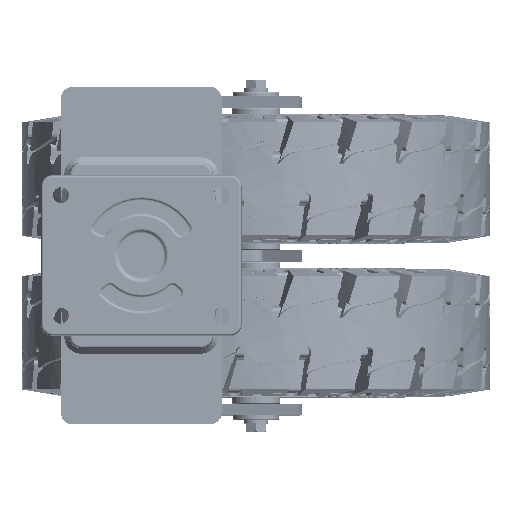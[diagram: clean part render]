
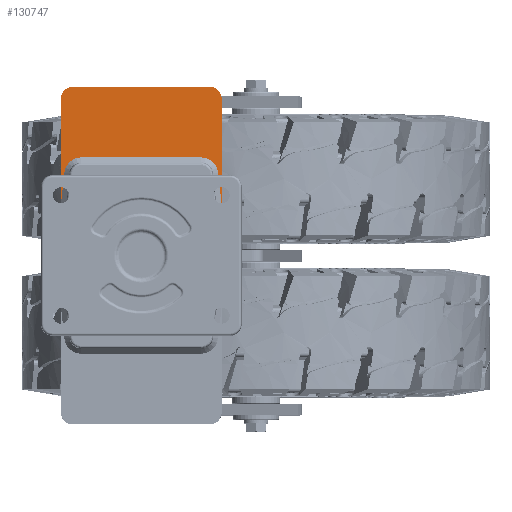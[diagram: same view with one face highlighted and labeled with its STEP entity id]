
A CAD part, top view. The second image highlights one B-rep face of the part: STEP entity #130747.
In plain terms, the highlighted planar face has unit normal (0, 0, 1).
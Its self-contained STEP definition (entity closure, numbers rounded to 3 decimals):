
#14773=B_SPLINE_CURVE_WITH_KNOTS('',3,(#339782,#339783,#339784,#339785,
#339786,#339787,#339788,#339789,#339790,#339791,#339792,#339793),
 .UNSPECIFIED.,.F.,.F.,(4,2,2,2,2,4),(-1.,-0.807,-0.602,
-0.398,-0.193,0.),.UNSPECIFIED.);
#14774=B_SPLINE_CURVE_WITH_KNOTS('',3,(#339797,#339798,#339799,#339800,
#339801,#339802,#339803,#339804,#339805,#339806,#339807,#339808),
 .UNSPECIFIED.,.F.,.F.,(4,2,2,2,2,4),(-1.,-0.807,-0.602,
-0.398,-0.193,0.),.UNSPECIFIED.);
#16883=PLANE('',#138519);
#23581=FACE_OUTER_BOUND('',#30939,.T.);
#30939=EDGE_LOOP('',(#112553,#112554,#112555,#112556,#112557,#112558,#112559,
#112560,#112561,#112562));
#35993=LINE('',#339728,#41616);
#36003=LINE('',#339750,#41626);
#36009=LINE('',#339766,#41632);
#36014=LINE('',#339780,#41637);
#36015=LINE('',#339795,#41638);
#36016=LINE('',#339809,#41639);
#41616=VECTOR('',#157230,10.);
#41626=VECTOR('',#157248,10.);
#41632=VECTOR('',#157262,10.);
#41637=VECTOR('',#157279,10.);
#41638=VECTOR('',#157280,10.);
#41639=VECTOR('',#157281,10.);
#46045=CIRCLE('',#138508,10.);
#46047=CIRCLE('',#138512,10.);
#57462=VERTEX_POINT('',#339725);
#57463=VERTEX_POINT('',#339727);
#57469=VERTEX_POINT('',#339742);
#57471=VERTEX_POINT('',#339748);
#57473=VERTEX_POINT('',#339754);
#57477=VERTEX_POINT('',#339764);
#57480=VERTEX_POINT('',#339779);
#57481=VERTEX_POINT('',#339781);
#57482=VERTEX_POINT('',#339794);
#57483=VERTEX_POINT('',#339796);
#76047=EDGE_CURVE('',#57463,#57462,#35993,.T.);
#76056=EDGE_CURVE('',#57462,#57469,#46045,.T.);
#76059=EDGE_CURVE('',#57469,#57471,#36003,.T.);
#76062=EDGE_CURVE('',#57471,#57473,#46047,.T.);
#76067=EDGE_CURVE('',#57473,#57477,#36009,.T.);
#76074=EDGE_CURVE('',#57477,#57480,#36014,.T.);
#76075=EDGE_CURVE('',#57480,#57481,#14773,.T.);
#76076=EDGE_CURVE('',#57481,#57482,#36015,.T.);
#76077=EDGE_CURVE('',#57482,#57483,#14774,.T.);
#76078=EDGE_CURVE('',#57483,#57463,#36016,.T.);
#112553=ORIENTED_EDGE('',*,*,#76074,.T.);
#112554=ORIENTED_EDGE('',*,*,#76075,.T.);
#112555=ORIENTED_EDGE('',*,*,#76076,.T.);
#112556=ORIENTED_EDGE('',*,*,#76077,.T.);
#112557=ORIENTED_EDGE('',*,*,#76078,.T.);
#112558=ORIENTED_EDGE('',*,*,#76047,.T.);
#112559=ORIENTED_EDGE('',*,*,#76056,.T.);
#112560=ORIENTED_EDGE('',*,*,#76059,.T.);
#112561=ORIENTED_EDGE('',*,*,#76062,.T.);
#112562=ORIENTED_EDGE('',*,*,#76067,.T.);
#130747=ADVANCED_FACE('',(#23581),#16883,.T.);
#138508=AXIS2_PLACEMENT_3D('',#339744,#157242,#157243);
#138512=AXIS2_PLACEMENT_3D('',#339756,#157254,#157255);
#138519=AXIS2_PLACEMENT_3D('',#339778,#157277,#157278);
#157230=DIRECTION('',(0.,1.,0.));
#157242=DIRECTION('center_axis',(0.,0.,
1.));
#157243=DIRECTION('ref_axis',(1.,0.,0.));
#157248=DIRECTION('',(-1.,0.,0.));
#157254=DIRECTION('center_axis',(0.,0.,
1.));
#157255=DIRECTION('ref_axis',(0.,1.,0.));
#157262=DIRECTION('',(0.,-1.,0.));
#157277=DIRECTION('center_axis',(0.,0.,
1.));
#157278=DIRECTION('ref_axis',(1.,0.,0.));
#157279=DIRECTION('',(0.11,0.994,0.));
#157280=DIRECTION('',(1.,0.,0.));
#157281=DIRECTION('',(0.11,-0.994,0.));
#339725=CARTESIAN_POINT('',(70.,137.,-41.));
#339727=CARTESIAN_POINT('',(70.,45.094,-41.));
#339728=CARTESIAN_POINT('',(70.,-137.,-41.));
#339742=CARTESIAN_POINT('',(60.,147.,-41.));
#339744=CARTESIAN_POINT('Origin',(60.,137.,-41.));
#339748=CARTESIAN_POINT('',(-60.,147.,-41.));
#339750=CARTESIAN_POINT('',(60.,147.,-41.));
#339754=CARTESIAN_POINT('',(-70.,137.,-41.));
#339756=CARTESIAN_POINT('Origin',(-60.,137.,-41.));
#339764=CARTESIAN_POINT('',(-70.,45.094,-41.));
#339766=CARTESIAN_POINT('',(-70.,137.,-41.));
#339778=CARTESIAN_POINT('Origin',(0.,0.,
-41.));
#339779=CARTESIAN_POINT('',(-67.011,72.229,-41.));
#339780=CARTESIAN_POINT('',(-70.54,40.194,-41.));
#339781=CARTESIAN_POINT('',(-52.178,85.517,-41.));
#339782=CARTESIAN_POINT('Ctrl Pts',(-67.011,72.229,
-41.));
#339783=CARTESIAN_POINT('Ctrl Pts',(-66.852,73.668,-41.));
#339784=CARTESIAN_POINT('Ctrl Pts',(-66.457,75.15,
-41.));
#339785=CARTESIAN_POINT('Ctrl Pts',(-65.352,77.758,
-41.));
#339786=CARTESIAN_POINT('Ctrl Pts',(-64.587,79.018,
-41.));
#339787=CARTESIAN_POINT('Ctrl Pts',(-62.723,81.261,
-41.));
#339788=CARTESIAN_POINT('Ctrl Pts',(-61.626,82.245,
-41.));
#339789=CARTESIAN_POINT('Ctrl Pts',(-59.192,83.852,
-41.));
#339790=CARTESIAN_POINT('Ctrl Pts',(-57.855,84.474,
-41.));
#339791=CARTESIAN_POINT('Ctrl Pts',(-55.142,85.287,
-41.));
#339792=CARTESIAN_POINT('Ctrl Pts',(-53.626,85.517,
-41.));
#339793=CARTESIAN_POINT('Ctrl Pts',(-52.178,85.517,
-41.));
#339794=CARTESIAN_POINT('',(52.178,85.517,-41.));
#339795=CARTESIAN_POINT('',(26.089,85.517,-41.));
#339796=CARTESIAN_POINT('',(67.011,72.229,-41.));
#339797=CARTESIAN_POINT('Ctrl Pts',(52.178,85.517,-41.));
#339798=CARTESIAN_POINT('Ctrl Pts',(53.626,85.517,-41.));
#339799=CARTESIAN_POINT('Ctrl Pts',(55.142,85.287,-41.));
#339800=CARTESIAN_POINT('Ctrl Pts',(57.855,84.474,-41.));
#339801=CARTESIAN_POINT('Ctrl Pts',(59.192,83.852,-41.));
#339802=CARTESIAN_POINT('Ctrl Pts',(61.626,82.245,-41.));
#339803=CARTESIAN_POINT('Ctrl Pts',(62.723,81.261,-41.));
#339804=CARTESIAN_POINT('Ctrl Pts',(64.587,79.018,-41.));
#339805=CARTESIAN_POINT('Ctrl Pts',(65.352,77.758,-41.));
#339806=CARTESIAN_POINT('Ctrl Pts',(66.457,75.15,-41.));
#339807=CARTESIAN_POINT('Ctrl Pts',(66.852,73.668,-41.));
#339808=CARTESIAN_POINT('Ctrl Pts',(67.011,72.229,-41.));
#339809=CARTESIAN_POINT('',(72.034,26.627,-41.));
